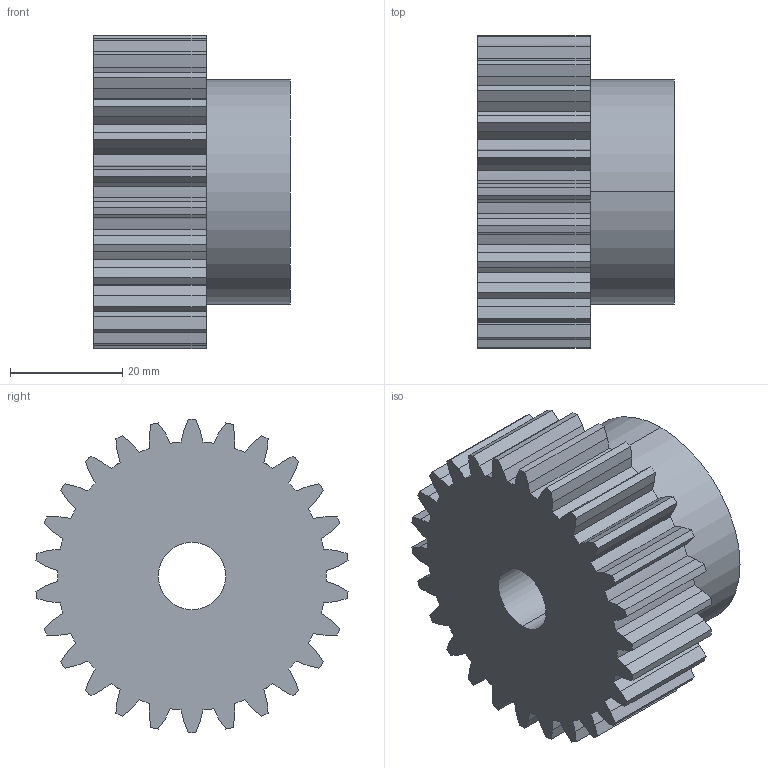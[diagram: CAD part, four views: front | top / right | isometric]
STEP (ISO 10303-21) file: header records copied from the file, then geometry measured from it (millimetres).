
FILE_DESCRIPTION (( 'STEP AP203' ), '1' );
FILE_NAME ('PM 28026.STEP', '2013-09-25T08:29:55', ( '' ), ( '' ), 'SwSTEP 2.0', 'SolidWorks 2010', '' );
FILE_SCHEMA (( 'CONFIG_CONTROL_DESIGN' ));
Length unit declared in the file: millimetre
Products named in the file (1): PM 28026
Bounding box: 35 x 55.74 x 56 mm (x, y, z)
Volume: 56817.8 mm3; surface area: 13313.2 mm2
Topology: 1 solids, 1 shells, 163 faces, 480 edges, 320 vertices
Faces by surface type: plane 107, cylinder 56
Entity records: 5611 total; most frequent: CARTESIAN_POINT 1384, ORIENTED_EDGE 960, DIRECTION 744, EDGE_CURVE 480, VERTEX_POINT 320, LINE 264, VECTOR 264, AXIS2_PLACEMENT_3D 240
